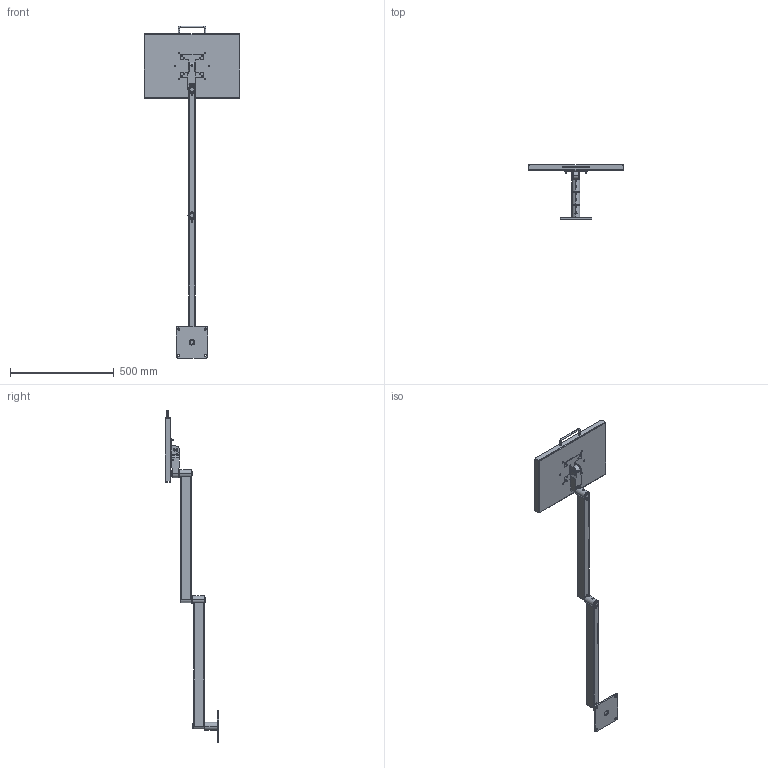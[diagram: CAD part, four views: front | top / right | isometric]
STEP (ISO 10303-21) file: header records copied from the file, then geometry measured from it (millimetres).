
FILE_DESCRIPTION (( 'STEP AP203' ), '1' );
FILE_NAME ('70-0705-00 REV AA, 48in RIGID SYSTEM, TILTING TRAY, TABLE MOUNT - FLAT.STEP', '2025-07-23T23:04:26', ( '' ), ( '' ), 'SwSTEP 2.0', 'SolidWorks 2025', '' );
FILE_SCHEMA (( 'CONFIG_CONTROL_DESIGN' ));
Length unit declared in the file: inch
Products named in the file (29): 70-0402-00 REV AA, 18x12 TILTING TOOL TRAY ASSEMBLY; 41-0063-RX REV AA, PIN, TILT, VESA; 016-008-00, OILITE PLUS BEARING, 0.876 id x 1.002 od x 1.25 lg; 71-1061-RX REV AA, BODY, VESA, RAW_MACHINE; 002-090-00, FHSCS 10-32 x .625L_002-090-00; 70-1024-00 REV AA, 24in RIGID SECTION; 71-1024-RX REV AA, HOUSING, 24in RIGID; 025-067-00, HANDLE, U SHAPED, 8-32; 11-0062-BLKX REV AA, BRACKET, VESA, SHEETMETAL, BLACK; 71-0122-RX REV AA, PLATE, PIVOT PLATE; 70-0060-00 REV AA, VESA ATTACHMENT; 11-0028-RX REV AA, PLASTIC DISC, VESA; 70-0048-00 REV AA, CONNECTOR PIN ASSEMBLY, .875OD x 3.9; 002-100-00, BHSCS, 8-32x.375_002-100-00; 002-088-00, FHSCS 10-32 x .5L, BO_002-088-00; 006-008-00, NUT, HEX, 10-32 x .125_006-008-00; 70-0015-00 REV AA, TABLE MOUNT; 70-0048-RX REV AA, CONNECTOR PIN, 875OD x 3.9; 11-0401-00 REV AA, 18x12 TOOL TRAY, BLACK; 016-012-00, OILITE PLUS BEARING, .876 IDx1.0 OD x 1.0; 11-0450-00 REV AA, FOAM, YELLOW, 18x12; 71-2113-RX REV AA, HOUSING, BEARING, TALL, 1.5OD_MACHINE; 007-036-00, SHSS, 1''4-28, .25L_007-036-00; 016-007-00, OILITE PLUS BEARING, 0.876 id x 1.002 od x 0.75 lg; 007-034-00, SHSS, .375-24, .25L_007-034-00; 70-0705-00 REV AA, 48in RIGID SYSTEM, TILTING TRAY, TABLE MOUNT - FLAT; 010-012-00, RETAINING RING, EXTERNAL, .875in SHAFT; 71-0022-RX REV AA, PIN, RIGID SECTION
Assembly tree (53 placements, depth 4):
  70-0705-00 REV AA, 48in RIGID SYSTEM, TILTING TRAY, TABLE MOUNT - FLAT
    70-0015-00 REV AA, TABLE MOUNT
      71-2113-RX REV AA, HOUSING, BEARING, TALL, 1.5OD_MACHINE
      71-0122-RX REV AA, PLATE, PIVOT PLATE
      016-007-00, OILITE PLUS BEARING, 0.876 id x 1.002 od x 0.75 lg
      016-008-00, OILITE PLUS BEARING, 0.876 id x 1.002 od x 1.25 lg
      007-036-00, SHSS, 1''4-28, .25L_007-036-00
    70-1024-00 REV AA, 24in RIGID SECTION
      71-1024-RX REV AA, HOUSING, 24in RIGID
      71-0022-RX REV AA, PIN, RIGID SECTION
      71-2113-RX REV AA, HOUSING, BEARING, TALL, 1.5OD_MACHINE
      016-007-00, OILITE PLUS BEARING, 0.876 id x 1.002 od x 0.75 lg
      016-008-00, OILITE PLUS BEARING, 0.876 id x 1.002 od x 1.25 lg
      007-036-00, SHSS, 1''4-28, .25L_007-036-00
    70-1024-00 REV AA, 24in RIGID SECTION
      71-1024-RX REV AA, HOUSING, 24in RIGID
      71-0022-RX REV AA, PIN, RIGID SECTION
      71-2113-RX REV AA, HOUSING, BEARING, TALL, 1.5OD_MACHINE
      016-007-00, OILITE PLUS BEARING, 0.876 id x 1.002 od x 0.75 lg
      016-008-00, OILITE PLUS BEARING, 0.876 id x 1.002 od x 1.25 lg
      007-036-00, SHSS, 1''4-28, .25L_007-036-00
      010-012-00, RETAINING RING, EXTERNAL, .875in SHAFT
    70-0048-00 REV AA, CONNECTOR PIN ASSEMBLY, .875OD x 3.9
      70-0048-RX REV AA, CONNECTOR PIN, 875OD x 3.9
      010-012-00, RETAINING RING, EXTERNAL, .875in SHAFT  x2
    70-0402-00 REV AA, 18x12 TILTING TOOL TRAY ASSEMBLY
      70-0060-00 REV AA, VESA ATTACHMENT
        71-1061-RX REV AA, BODY, VESA, RAW_MACHINE
        016-008-00, OILITE PLUS BEARING, 0.876 id x 1.002 od x 1.25 lg
        016-012-00, OILITE PLUS BEARING, .876 IDx1.0 OD x 1.0
        007-034-00, SHSS, .375-24, .25L_007-034-00
        41-0063-RX REV AA, PIN, TILT, VESA
        11-0028-RX REV AA, PLASTIC DISC, VESA  x2
        11-0062-BLKX REV AA, BRACKET, VESA, SHEETMETAL, BLACK
        002-088-00, FHSCS 10-32 x .5L, BO_002-088-00  x4
        007-036-00, SHSS, 1''4-28, .25L_007-036-00
      11-0401-00 REV AA, 18x12 TOOL TRAY, BLACK
      025-067-00, HANDLE, U SHAPED, 8-32
      11-0450-00 REV AA, FOAM, YELLOW, 18x12
      002-100-00, BHSCS, 8-32x.375_002-100-00  x2
      002-090-00, FHSCS 10-32 x .625L_002-090-00  x4
      006-008-00, NUT, HEX, 10-32 x .125_006-008-00  x4
Bounding box: 461.77 x 259.9 x 1602.59 mm (x, y, z)
Volume: 1904605.9 mm3; surface area: 1236998.6 mm2
Topology: 47 solids, 47 shells, 1831 faces, 4493 edges, 2757 vertices
Faces by surface type: cylinder 905, cone 414, plane 347, torus 112, bspline 49, sphere 4
Entity records: 35553 total; most frequent: CARTESIAN_POINT 13877, ORIENTED_EDGE 3780, DIRECTION 3767, EDGE_CURVE 1890, AXIS2_PLACEMENT_3D 1495, VERTEX_POINT 1168, EDGE_LOOP 894, FACE_OUTER_BOUND 778
